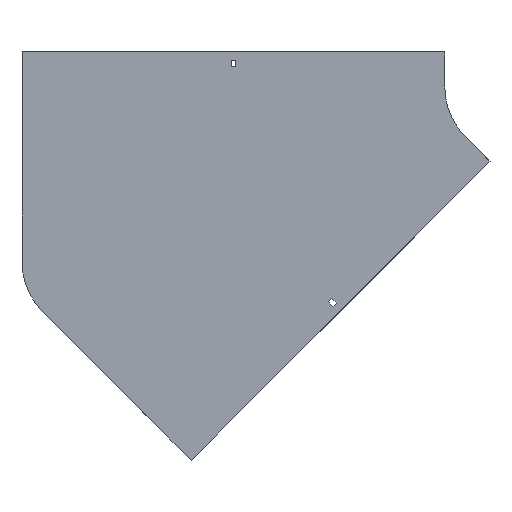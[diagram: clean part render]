
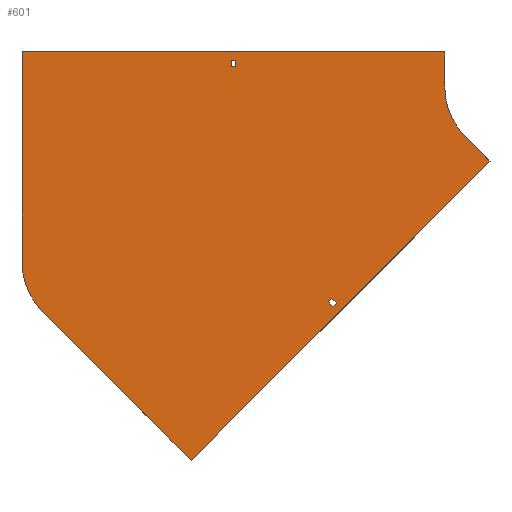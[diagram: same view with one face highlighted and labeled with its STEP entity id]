
A CAD part, front view. The second image highlights one B-rep face of the part: STEP entity #601.
In plain terms, the highlighted planar face has unit normal (0, -1, 0).
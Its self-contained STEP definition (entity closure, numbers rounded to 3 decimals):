
#22 = EDGE_CURVE ( 'NONE', #217, #931, #490, .T. ) ;
#37 = EDGE_CURVE ( 'NONE', #525, #258, #339, .T. ) ;
#52 = AXIS2_PLACEMENT_3D ( 'NONE', #1225, #1346, #772 ) ;
#70 = EDGE_CURVE ( 'NONE', #170, #1347, #1111, .T. ) ;
#115 = EDGE_CURVE ( 'NONE', #931, #495, #767, .T. ) ;
#134 = VERTEX_POINT ( 'NONE', #1545 ) ;
#149 = ORIENTED_EDGE ( 'NONE', *, *, #841, .F. ) ;
#160 = DIRECTION ( 'NONE',  ( 0.707, 0., -0.707 ) ) ;
#162 = FACE_BOUND ( 'NONE', #1059, .T. ) ;
#170 = VERTEX_POINT ( 'NONE', #565 ) ;
#178 = LINE ( 'NONE', #1523, #663 ) ;
#180 = CARTESIAN_POINT ( 'NONE',  ( -398.75, 0., 38. ) ) ;
#193 = CARTESIAN_POINT ( 'NONE',  ( -266.049, 0., -307.061 ) ) ;
#194 = DIRECTION ( 'NONE',  ( -1., 0., 0. ) ) ;
#204 = EDGE_CURVE ( 'NONE', #1654, #134, #558, .T. ) ;
#216 = EDGE_CURVE ( 'NONE', #1264, #1619, #823, .T. ) ;
#217 = VERTEX_POINT ( 'NONE', #1155 ) ;
#246 = ORIENTED_EDGE ( 'NONE', *, *, #1434, .F. ) ;
#258 = VERTEX_POINT ( 'NONE', #881 ) ;
#259 = AXIS2_PLACEMENT_3D ( 'NONE', #1892, #386, #1712 ) ;
#281 = CARTESIAN_POINT ( 'NONE',  ( -100., 0., 50. ) ) ;
#282 = ORIENTED_EDGE ( 'NONE', *, *, #70, .T. ) ;
#304 = PLANE ( 'NONE',  #52 ) ;
#321 = DIRECTION ( 'NONE',  ( -0.707, 0., 0.707 ) ) ;
#339 = LINE ( 'NONE', #1691, #830 ) ;
#353 = VECTOR ( 'NONE', #1008, 1000. ) ;
#356 = DIRECTION ( 'NONE',  ( 1., 0., 0. ) ) ;
#386 = DIRECTION ( 'NONE',  ( 0., -1., 0. ) ) ;
#410 = CARTESIAN_POINT ( 'NONE',  ( -100., 0., 0. ) ) ;
#419 = VECTOR ( 'NONE', #640, 1000. ) ;
#437 = ORIENTED_EDGE ( 'NONE', *, *, #1017, .F. ) ;
#473 = DIRECTION ( 'NONE',  ( 0., 1., 0. ) ) ;
#484 = DIRECTION ( 'NONE',  ( 0., 0., 1. ) ) ;
#490 = LINE ( 'NONE', #513, #979 ) ;
#493 = DIRECTION ( 'NONE',  ( -0.707, 0., 0.707 ) ) ;
#495 = VERTEX_POINT ( 'NONE', #1303 ) ;
#506 = CARTESIAN_POINT ( 'NONE',  ( -704., 0., 50. ) ) ;
#509 = DIRECTION ( 'NONE',  ( 0., 0., -1. ) ) ;
#512 = VERTEX_POINT ( 'NONE', #410 ) ;
#513 = CARTESIAN_POINT ( 'NONE',  ( -462.448, 0., -533.159 ) ) ;
#518 = LINE ( 'NONE', #1536, #1002 ) ;
#525 = VERTEX_POINT ( 'NONE', #578 ) ;
#534 = CARTESIAN_POINT ( 'NONE',  ( -704., 0., 50. ) ) ;
#558 = LINE ( 'NONE', #1121, #353 ) ;
#563 = CARTESIAN_POINT ( 'NONE',  ( -261.453, 0., -302.465 ) ) ;
#565 = CARTESIAN_POINT ( 'NONE',  ( -405.25, 0., 29. ) ) ;
#570 = VECTOR ( 'NONE', #1152, 1000. ) ;
#578 = CARTESIAN_POINT ( 'NONE',  ( -259.685, 0., -313.425 ) ) ;
#598 = CARTESIAN_POINT ( 'NONE',  ( -70.711, 0., -70.711 ) ) ;
#600 = VERTEX_POINT ( 'NONE', #180 ) ;
#601 = ADVANCED_FACE ( 'NONE', ( #162, #1515, #764 ), #304, .T. ) ;
#602 = VECTOR ( 'NONE', #1749, 1000. ) ;
#622 = DIRECTION ( 'NONE',  ( 0.707, 0., -0.707 ) ) ;
#640 = DIRECTION ( 'NONE',  ( 0., 0., 1. ) ) ;
#646 = EDGE_CURVE ( 'NONE', #1239, #1462, #1665, .T. ) ;
#647 = ORIENTED_EDGE ( 'NONE', *, *, #216, .F. ) ;
#663 = VECTOR ( 'NONE', #509, 1000. ) ;
#677 = ORIENTED_EDGE ( 'NONE', *, *, #1467, .T. ) ;
#684 = EDGE_LOOP ( 'NONE', ( #647, #437, #963, #1555, #1419, #1744, #149, #972 ) ) ;
#692 = CARTESIAN_POINT ( 'NONE',  ( -405.25, 0., 29. ) ) ;
#716 = ORIENTED_EDGE ( 'NONE', *, *, #718, .T. ) ;
#718 = EDGE_CURVE ( 'NONE', #1205, #170, #1889, .T. ) ;
#745 = CARTESIAN_POINT ( 'NONE',  ( -398.75, 0., 29. ) ) ;
#749 = EDGE_CURVE ( 'NONE', #1347, #600, #518, .T. ) ;
#764 = FACE_BOUND ( 'NONE', #872, .T. ) ;
#767 = CIRCLE ( 'NONE', #1450, 100. ) ;
#772 = DIRECTION ( 'NONE',  ( 0., 0., -1. ) ) ;
#801 = CARTESIAN_POINT ( 'NONE',  ( -604., 0., -250.185 ) ) ;
#820 = ORIENTED_EDGE ( 'NONE', *, *, #749, .T. ) ;
#822 = VECTOR ( 'NONE', #493, 1000. ) ;
#823 = LINE ( 'NONE', #534, #602 ) ;
#830 = VECTOR ( 'NONE', #1377, 1000. ) ;
#841 = EDGE_CURVE ( 'NONE', #512, #1239, #1943, .T. ) ;
#858 = ORIENTED_EDGE ( 'NONE', *, *, #204, .F. ) ;
#872 = EDGE_LOOP ( 'NONE', ( #896, #246, #858, #1036 ) ) ;
#881 = CARTESIAN_POINT ( 'NONE',  ( -255.089, 0., -308.829 ) ) ;
#884 = DIRECTION ( 'NONE',  ( -0.707, 0., -0.707 ) ) ;
#896 = ORIENTED_EDGE ( 'NONE', *, *, #37, .F. ) ;
#931 = VERTEX_POINT ( 'NONE', #1875 ) ;
#945 = CARTESIAN_POINT ( 'NONE',  ( -405.25, 0., 29. ) ) ;
#963 = ORIENTED_EDGE ( 'NONE', *, *, #115, .F. ) ;
#972 = ORIENTED_EDGE ( 'NONE', *, *, #1023, .F. ) ;
#979 = VECTOR ( 'NONE', #321, 1000. ) ;
#1000 = LINE ( 'NONE', #1589, #1558 ) ;
#1002 = VECTOR ( 'NONE', #356, 1000. ) ;
#1008 = DIRECTION ( 'NONE',  ( -0.707, 0., -0.707 ) ) ;
#1017 = EDGE_CURVE ( 'NONE', #495, #1264, #1297, .T. ) ;
#1023 = EDGE_CURVE ( 'NONE', #1619, #512, #1783, .T. ) ;
#1036 = ORIENTED_EDGE ( 'NONE', *, *, #1158, .F. ) ;
#1059 = EDGE_LOOP ( 'NONE', ( #282, #820, #677, #716 ) ) ;
#1111 = LINE ( 'NONE', #945, #419 ) ;
#1121 = CARTESIAN_POINT ( 'NONE',  ( -266.049, 0., -307.061 ) ) ;
#1152 = DIRECTION ( 'NONE',  ( 0., 0., 1. ) ) ;
#1155 = CARTESIAN_POINT ( 'NONE',  ( -462.448, 0., -533.159 ) ) ;
#1158 = EDGE_CURVE ( 'NONE', #258, #1654, #1834, .T. ) ;
#1178 = CARTESIAN_POINT ( 'NONE',  ( -100., 0., 50. ) ) ;
#1187 = EDGE_CURVE ( 'NONE', #1462, #217, #1000, .T. ) ;
#1198 = CARTESIAN_POINT ( 'NONE',  ( -405.25, 0., 38. ) ) ;
#1205 = VERTEX_POINT ( 'NONE', #745 ) ;
#1215 = LINE ( 'NONE', #193, #1847 ) ;
#1225 = CARTESIAN_POINT ( 'NONE',  ( 0., 0., 0. ) ) ;
#1239 = VERTEX_POINT ( 'NONE', #1254 ) ;
#1254 = CARTESIAN_POINT ( 'NONE',  ( -70.711, 0., -70.711 ) ) ;
#1264 = VERTEX_POINT ( 'NONE', #506 ) ;
#1297 = LINE ( 'NONE', #1897, #570 ) ;
#1303 = CARTESIAN_POINT ( 'NONE',  ( -704., 0., -250.185 ) ) ;
#1346 = DIRECTION ( 'NONE',  ( 0., -1., 0. ) ) ;
#1347 = VERTEX_POINT ( 'NONE', #1198 ) ;
#1377 = DIRECTION ( 'NONE',  ( 0.707, 0., 0.707 ) ) ;
#1388 = CARTESIAN_POINT ( 'NONE',  ( -261.453, 0., -302.465 ) ) ;
#1419 = ORIENTED_EDGE ( 'NONE', *, *, #1187, .F. ) ;
#1434 = EDGE_CURVE ( 'NONE', #134, #525, #1215, .T. ) ;
#1450 = AXIS2_PLACEMENT_3D ( 'NONE', #801, #473, #484 ) ;
#1462 = VERTEX_POINT ( 'NONE', #1696 ) ;
#1467 = EDGE_CURVE ( 'NONE', #600, #1205, #178, .T. ) ;
#1474 = VECTOR ( 'NONE', #622, 1000. ) ;
#1515 = FACE_OUTER_BOUND ( 'NONE', #684, .T. ) ;
#1523 = CARTESIAN_POINT ( 'NONE',  ( -398.75, 0., 29. ) ) ;
#1529 = VECTOR ( 'NONE', #194, 1000. ) ;
#1536 = CARTESIAN_POINT ( 'NONE',  ( -405.25, 0., 38. ) ) ;
#1545 = CARTESIAN_POINT ( 'NONE',  ( -266.049, 0., -307.061 ) ) ;
#1555 = ORIENTED_EDGE ( 'NONE', *, *, #22, .F. ) ;
#1558 = VECTOR ( 'NONE', #884, 1000. ) ;
#1589 = CARTESIAN_POINT ( 'NONE',  ( -35.355, 0., -106.066 ) ) ;
#1592 = VECTOR ( 'NONE', #1630, 1000. ) ;
#1619 = VERTEX_POINT ( 'NONE', #281 ) ;
#1630 = DIRECTION ( 'NONE',  ( 0., 0., -1. ) ) ;
#1654 = VERTEX_POINT ( 'NONE', #563 ) ;
#1665 = LINE ( 'NONE', #598, #1474 ) ;
#1691 = CARTESIAN_POINT ( 'NONE',  ( -259.685, 0., -313.425 ) ) ;
#1696 = CARTESIAN_POINT ( 'NONE',  ( -35.355, 0., -106.066 ) ) ;
#1712 = DIRECTION ( 'NONE',  ( 0., 0., -1. ) ) ;
#1744 = ORIENTED_EDGE ( 'NONE', *, *, #646, .F. ) ;
#1749 = DIRECTION ( 'NONE',  ( 1., 0., 0. ) ) ;
#1783 = LINE ( 'NONE', #1178, #1592 ) ;
#1834 = LINE ( 'NONE', #1388, #822 ) ;
#1847 = VECTOR ( 'NONE', #160, 1000. ) ;
#1875 = CARTESIAN_POINT ( 'NONE',  ( -674.711, 0., -320.896 ) ) ;
#1889 = LINE ( 'NONE', #692, #1529 ) ;
#1892 = CARTESIAN_POINT ( 'NONE',  ( 0., 0., 0. ) ) ;
#1897 = CARTESIAN_POINT ( 'NONE',  ( -704., 0., -250.185 ) ) ;
#1943 = CIRCLE ( 'NONE', #259, 100. ) ;
